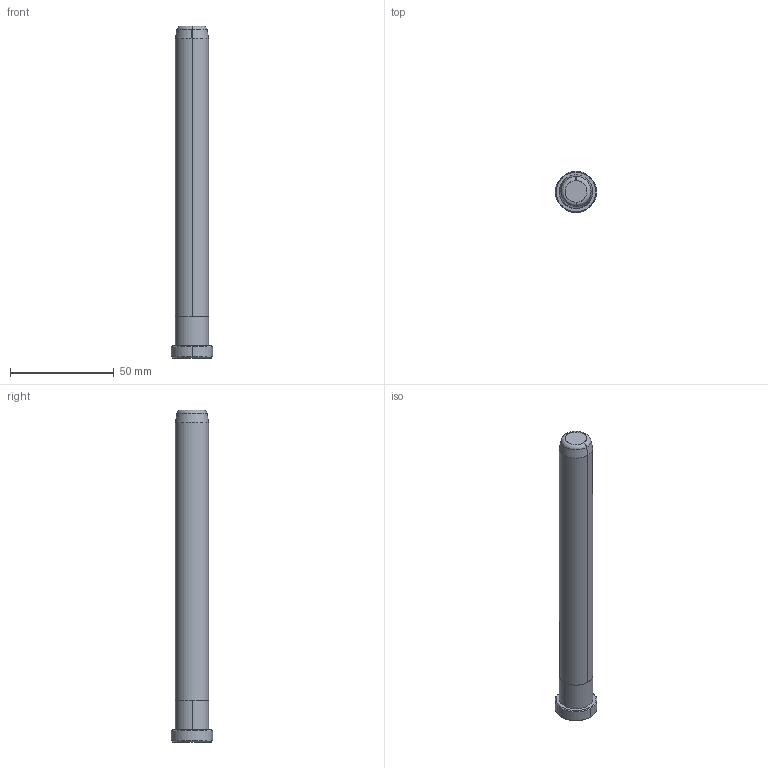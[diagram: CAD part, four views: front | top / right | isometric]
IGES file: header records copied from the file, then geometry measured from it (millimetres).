
Start section: START RECORD GO HERE.
Global section: file name: B80816160.igs; native system: DASSAULT SYSTEMES CATIA V5 R20 - www.3ds.com; preprocessor: CATIA Version 5 Release 20 ; author: Utente; organization: NB04-ASUS; date: 20200419.165249; units: millimetre
Bounding box: 20 x 20 x 160 mm (x, y, z)
Surface area: 8618.4 mm2 (no closed solid volume)
Topology: 0 solids, 0 shells, 20 faces, 80 edges, 80 vertices
Faces by surface type: revolution 16, plane 4
